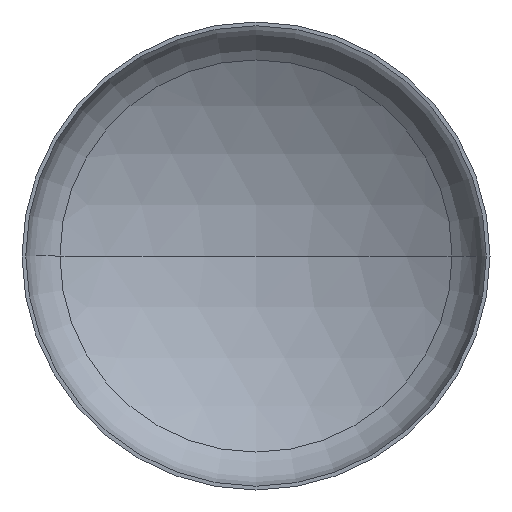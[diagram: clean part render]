
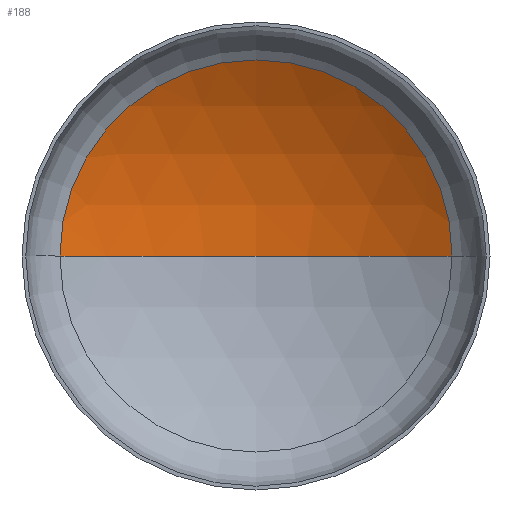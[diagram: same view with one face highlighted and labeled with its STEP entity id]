
A CAD part, front view. The second image highlights one B-rep face of the part: STEP entity #188.
In plain terms, the highlighted spherical face has radius 2560 mm.
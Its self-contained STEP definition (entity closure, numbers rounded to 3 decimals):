
#6 = AXIS2_PLACEMENT_3D ( 'NONE', #106, #112, #184 ) ;
#14 = EDGE_LOOP ( 'NONE', ( #149, #127, #52 ) ) ;
#17 = CARTESIAN_POINT ( 'NONE',  ( 0., 881.525, 0. ) ) ;
#18 = AXIS2_PLACEMENT_3D ( 'NONE', #321, #238, #65 ) ;
#20 = DIRECTION ( 'NONE',  ( 1., 0., 0. ) ) ;
#35 = AXIS2_PLACEMENT_3D ( 'NONE', #296, #204, #251 ) ;
#42 = AXIS2_PLACEMENT_3D ( 'NONE', #56, #121, #20 ) ;
#52 = ORIENTED_EDGE ( 'NONE', *, *, #93, .T. ) ;
#56 = CARTESIAN_POINT ( 'NONE',  ( 0., 502.441, 0. ) ) ;
#65 = DIRECTION ( 'NONE',  ( -1., 0., 0. ) ) ;
#76 = VERTEX_POINT ( 'NONE', #225 ) ;
#93 = EDGE_CURVE ( 'NONE', #76, #156, #193, .T. ) ;
#106 = CARTESIAN_POINT ( 'NONE',  ( 0., -1678.475, 0. ) ) ;
#112 = DIRECTION ( 'NONE',  ( 0., 0., 1. ) ) ;
#115 = CIRCLE ( 'NONE', #6, 2560. ) ;
#121 = DIRECTION ( 'NONE',  ( 0., -1., 0. ) ) ;
#127 = ORIENTED_EDGE ( 'NONE', *, *, #355, .T. ) ;
#133 = VERTEX_POINT ( 'NONE', #17 ) ;
#149 = ORIENTED_EDGE ( 'NONE', *, *, #361, .F. ) ;
#156 = VERTEX_POINT ( 'NONE', #166 ) ;
#166 = CARTESIAN_POINT ( 'NONE',  ( -1340.599, 502.441, 0. ) ) ;
#184 = DIRECTION ( 'NONE',  ( 1., 0., 0. ) ) ;
#188 = ADVANCED_FACE ( 'NONE', ( #253 ), #309, .F. ) ;
#193 = CIRCLE ( 'NONE', #42, 1340.599 ) ;
#204 = DIRECTION ( 'NONE',  ( 0., 0., -1. ) ) ;
#225 = CARTESIAN_POINT ( 'NONE',  ( 1340.599, 502.441, 0. ) ) ;
#238 = DIRECTION ( 'NONE',  ( 0., 0., -1. ) ) ;
#251 = DIRECTION ( 'NONE',  ( -1., 0., 0. ) ) ;
#253 = FACE_OUTER_BOUND ( 'NONE', #14, .T. ) ;
#296 = CARTESIAN_POINT ( 'NONE',  ( 0., -1678.475, 0. ) ) ;
#309 = SPHERICAL_SURFACE ( 'NONE', #35, 2560. ) ;
#321 = CARTESIAN_POINT ( 'NONE',  ( 0., -1678.475, 0. ) ) ;
#355 = EDGE_CURVE ( 'NONE', #133, #76, #406, .T. ) ;
#361 = EDGE_CURVE ( 'NONE', #133, #156, #115, .T. ) ;
#406 = CIRCLE ( 'NONE', #18, 2560. ) ;
